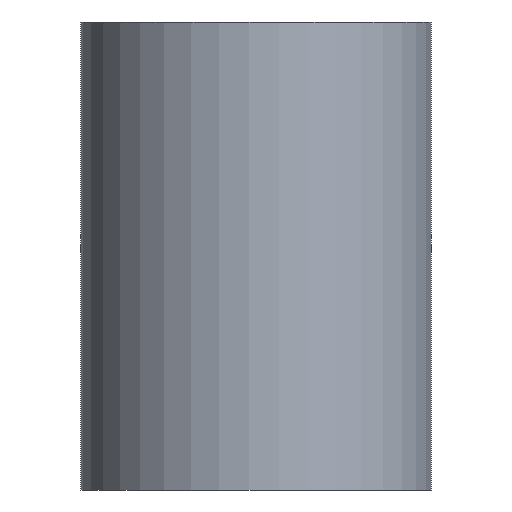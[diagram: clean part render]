
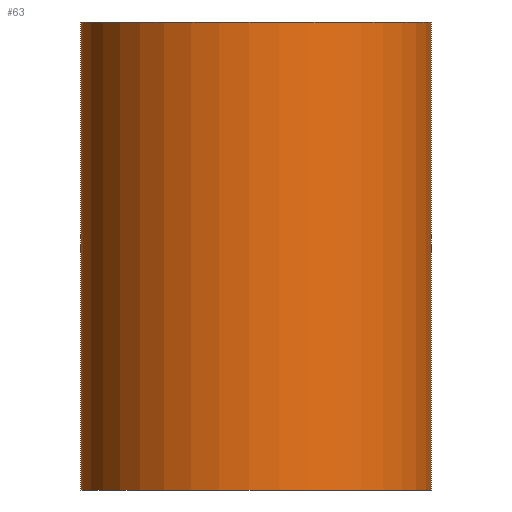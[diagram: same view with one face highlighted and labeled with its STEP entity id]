
A CAD part, front view. The second image highlights one B-rep face of the part: STEP entity #63.
In plain terms, the highlighted cylindrical face has radius 6 mm (diameter 12 mm), a partial arc.
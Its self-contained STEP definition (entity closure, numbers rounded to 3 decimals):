
#11 = ORIENTED_EDGE ( 'NONE', *, *, #144, .F. ) ;
#13 = CARTESIAN_POINT ( 'NONE',  ( 5.979, -0.5, 16. ) ) ;
#14 = AXIS2_PLACEMENT_3D ( 'NONE', #171, #183, #190 ) ;
#15 = CARTESIAN_POINT ( 'NONE',  ( 5.979, -0.5, 0. ) ) ;
#20 = ORIENTED_EDGE ( 'NONE', *, *, #157, .T. ) ;
#25 = DIRECTION ( 'NONE',  ( 0., 0., -1. ) ) ;
#51 = AXIS2_PLACEMENT_3D ( 'NONE', #134, #130, #131 ) ;
#55 = DIRECTION ( 'NONE',  ( 0., 0., 1. ) ) ;
#63 = ADVANCED_FACE ( 'NONE', ( #132 ), #200, .T. ) ;
#70 = LINE ( 'NONE', #13, #153 ) ;
#72 = VECTOR ( 'NONE', #25, 1000. ) ;
#83 = CARTESIAN_POINT ( 'NONE',  ( -6., 0., 16. ) ) ;
#97 = CARTESIAN_POINT ( 'NONE',  ( 5.979, -0.5, 16. ) ) ;
#104 = CARTESIAN_POINT ( 'NONE',  ( -6., 0., 0. ) ) ;
#114 = CIRCLE ( 'NONE', #51, 6. ) ;
#121 = CARTESIAN_POINT ( 'NONE',  ( -6., 0., 16. ) ) ;
#129 = LINE ( 'NONE', #83, #72 ) ;
#130 = DIRECTION ( 'NONE',  ( 0., 0., 1. ) ) ;
#131 = DIRECTION ( 'NONE',  ( 1., 0., 0. ) ) ;
#132 = FACE_OUTER_BOUND ( 'NONE', #236, .T. ) ;
#134 = CARTESIAN_POINT ( 'NONE',  ( 0., 0., 16. ) ) ;
#140 = EDGE_CURVE ( 'NONE', #276, #252, #70, .T. ) ;
#144 = EDGE_CURVE ( 'NONE', #195, #252, #114, .T. ) ;
#153 = VECTOR ( 'NONE', #55, 1000. ) ;
#157 = EDGE_CURVE ( 'NONE', #208, #276, #163, .T. ) ;
#163 = CIRCLE ( 'NONE', #14, 6. ) ;
#171 = CARTESIAN_POINT ( 'NONE',  ( 0., 0., 0. ) ) ;
#175 = DIRECTION ( 'NONE',  ( 0., 0., -1. ) ) ;
#181 = CARTESIAN_POINT ( 'NONE',  ( 0., 0., 16. ) ) ;
#183 = DIRECTION ( 'NONE',  ( 0., 0., 1. ) ) ;
#190 = DIRECTION ( 'NONE',  ( 1., 0., 0. ) ) ;
#191 = DIRECTION ( 'NONE',  ( -1., 0., 0. ) ) ;
#195 = VERTEX_POINT ( 'NONE', #121 ) ;
#200 = CYLINDRICAL_SURFACE ( 'NONE', #266, 6. ) ;
#208 = VERTEX_POINT ( 'NONE', #104 ) ;
#215 = ORIENTED_EDGE ( 'NONE', *, *, #140, .T. ) ;
#220 = ORIENTED_EDGE ( 'NONE', *, *, #260, .T. ) ;
#236 = EDGE_LOOP ( 'NONE', ( #11, #220, #20, #215 ) ) ;
#252 = VERTEX_POINT ( 'NONE', #97 ) ;
#260 = EDGE_CURVE ( 'NONE', #195, #208, #129, .T. ) ;
#266 = AXIS2_PLACEMENT_3D ( 'NONE', #181, #175, #191 ) ;
#276 = VERTEX_POINT ( 'NONE', #15 ) ;
